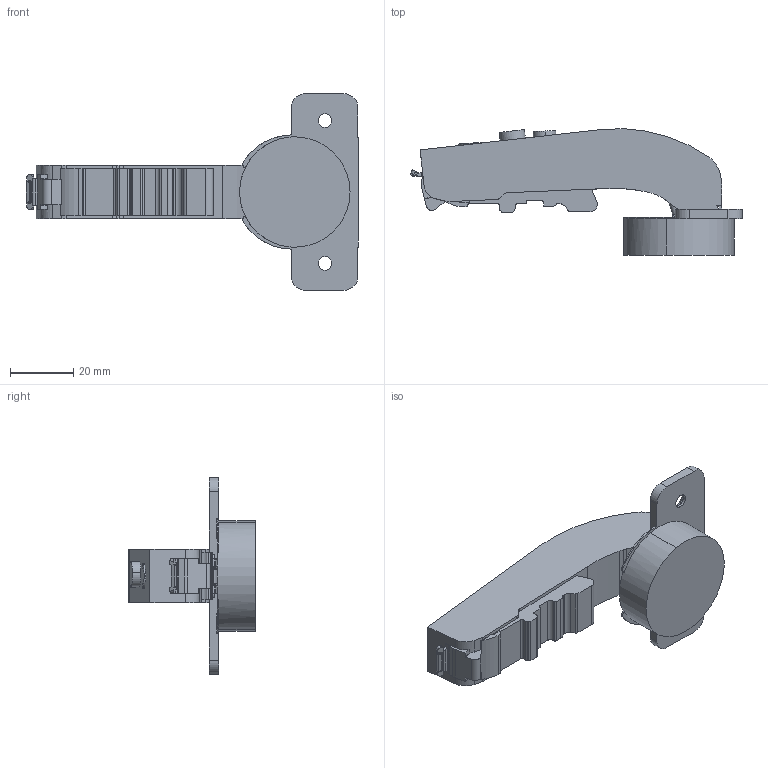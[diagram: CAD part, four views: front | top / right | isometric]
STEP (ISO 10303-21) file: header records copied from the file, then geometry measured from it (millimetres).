
FILE_DESCRIPTION (( 'STEP AP203' ), '1' );
FILE_NAME ('C81J875FAB DTC 3D CLOSE.STEP', '2024-07-26T01:42:10', ( '微软用户' ), ( '微软中国' ), 'SwSTEP 2.0', 'SolidWorks 2021', '' );
FILE_SCHEMA (( 'CONFIG_CONTROL_DESIGN' ));
Length unit declared in the file: millimetre
Products named in the file (1): C81J875FAB DTC 3D CLOSE
Bounding box: 104.64 x 39.87 x 62 mm (x, y, z)
Volume: 46756.9 mm3; surface area: 12970.6 mm2
Topology: 1 solids, 3 shells, 279 faces, 782 edges, 511 vertices
Faces by surface type: cylinder 121, plane 111, torus 28, bspline 15, cone 4
Entity records: 9492 total; most frequent: CARTESIAN_POINT 2211, ORIENTED_EDGE 1560, DIRECTION 1504, EDGE_CURVE 780, AXIS2_PLACEMENT_3D 550, VERTEX_POINT 511, LINE 404, VECTOR 404
